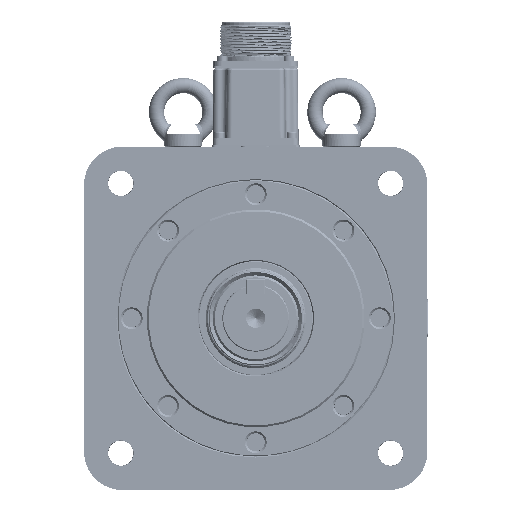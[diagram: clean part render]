
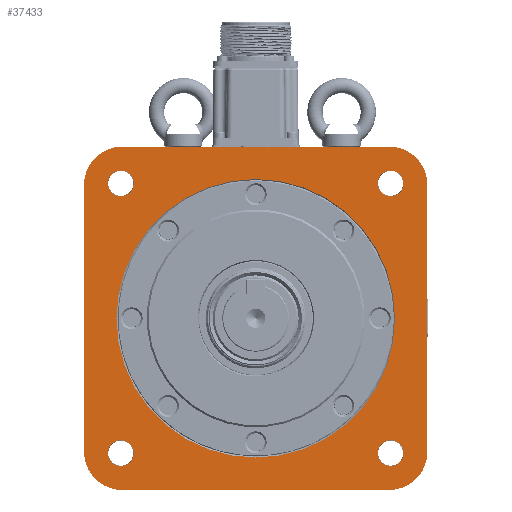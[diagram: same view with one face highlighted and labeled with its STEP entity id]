
A CAD part, front view. The second image highlights one B-rep face of the part: STEP entity #37433.
In plain terms, the highlighted planar face has unit normal (0, -1, 0).
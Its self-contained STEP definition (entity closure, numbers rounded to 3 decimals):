
#2933=LINE('',#73400,#5545);
#2938=LINE('',#73408,#5550);
#2943=LINE('',#73416,#5555);
#2952=LINE('',#73454,#5564);
#5545=VECTOR('',#49076,1000.);
#5550=VECTOR('',#49083,1000.);
#5555=VECTOR('',#49090,1000.);
#5564=VECTOR('',#49123,1000.);
#8064=PLANE('',#40994);
#15091=ORIENTED_EDGE('',*,*,#21865,.T.);
#15092=ORIENTED_EDGE('',*,*,#21758,.F.);
#15093=ORIENTED_EDGE('',*,*,#21768,.F.);
#15094=ORIENTED_EDGE('',*,*,#21790,.F.);
#15095=ORIENTED_EDGE('',*,*,#21780,.F.);
#15096=ORIENTED_EDGE('',*,*,#21816,.T.);
#15097=ORIENTED_EDGE('',*,*,#21840,.T.);
#15098=ORIENTED_EDGE('',*,*,#21811,.T.);
#15099=ORIENTED_EDGE('',*,*,#21841,.T.);
#15100=ORIENTED_EDGE('',*,*,#21806,.T.);
#15101=ORIENTED_EDGE('',*,*,#21842,.T.);
#15102=ORIENTED_EDGE('',*,*,#21836,.T.);
#15103=ORIENTED_EDGE('',*,*,#21839,.T.);
#21758=EDGE_CURVE('',#25850,#25850,#28120,.F.);
#21768=EDGE_CURVE('',#25860,#25860,#28126,.F.);
#21780=EDGE_CURVE('',#25872,#25872,#28134,.F.);
#21790=EDGE_CURVE('',#25882,#25882,#28140,.F.);
#21806=EDGE_CURVE('',#25893,#25892,#2933,.T.);
#21811=EDGE_CURVE('',#25895,#25894,#2938,.T.);
#21816=EDGE_CURVE('',#25897,#25896,#2943,.T.);
#21836=EDGE_CURVE('',#25914,#25913,#2952,.T.);
#21839=EDGE_CURVE('',#25913,#25897,#28157,.F.);
#21840=EDGE_CURVE('',#25896,#25895,#28158,.F.);
#21841=EDGE_CURVE('',#25894,#25893,#28159,.F.);
#21842=EDGE_CURVE('',#25892,#25914,#28160,.F.);
#21865=EDGE_CURVE('',#25925,#25925,#28171,.T.);
#25850=VERTEX_POINT('',#73297);
#25860=VERTEX_POINT('',#73319);
#25872=VERTEX_POINT('',#73347);
#25882=VERTEX_POINT('',#73369);
#25892=VERTEX_POINT('',#73399);
#25893=VERTEX_POINT('',#73401);
#25894=VERTEX_POINT('',#73407);
#25895=VERTEX_POINT('',#73409);
#25896=VERTEX_POINT('',#73415);
#25897=VERTEX_POINT('',#73417);
#25913=VERTEX_POINT('',#73453);
#25914=VERTEX_POINT('',#73455);
#25925=VERTEX_POINT('',#73519);
#28120=CIRCLE('',#40904,6.745);
#28126=CIRCLE('',#40912,6.745);
#28134=CIRCLE('',#40924,6.745);
#28140=CIRCLE('',#40932,6.745);
#28157=CIRCLE('',#40958,20.);
#28158=CIRCLE('',#40960,20.);
#28159=CIRCLE('',#40962,20.);
#28160=CIRCLE('',#40964,20.);
#28171=CIRCLE('',#40995,73.);
#30792=EDGE_LOOP('',(#15091));
#30793=EDGE_LOOP('',(#15092));
#30794=EDGE_LOOP('',(#15093));
#30795=EDGE_LOOP('',(#15094));
#30796=EDGE_LOOP('',(#15095));
#30797=EDGE_LOOP('',(#15096,#15097,#15098,#15099,#15100,#15101,#15102,#15103));
#34103=FACE_BOUND('',#30792,.T.);
#34104=FACE_BOUND('',#30793,.T.);
#34105=FACE_BOUND('',#30794,.T.);
#34106=FACE_BOUND('',#30795,.T.);
#34107=FACE_BOUND('',#30796,.T.);
#34108=FACE_BOUND('',#30797,.T.);
#37433=ADVANCED_FACE('',(#34103,#34104,#34105,#34106,#34107,#34108),#8064,
 .F.);
#40904=AXIS2_PLACEMENT_3D('',#73296,#48976,#48977);
#40912=AXIS2_PLACEMENT_3D('',#73318,#48996,#48997);
#40924=AXIS2_PLACEMENT_3D('',#73346,#49024,#49025);
#40932=AXIS2_PLACEMENT_3D('',#73368,#49044,#49045);
#40958=AXIS2_PLACEMENT_3D('',#73459,#49128,#49129);
#40960=AXIS2_PLACEMENT_3D('',#73461,#49132,#49133);
#40962=AXIS2_PLACEMENT_3D('',#73463,#49136,#49137);
#40964=AXIS2_PLACEMENT_3D('',#73465,#49140,#49141);
#40994=AXIS2_PLACEMENT_3D('',#73517,#49212,#49213);
#40995=AXIS2_PLACEMENT_3D('',#73518,#49214,#49215);
#48976=DIRECTION('',(0.,1.,0.));
#48977=DIRECTION('',(0.,0.,1.));
#48996=DIRECTION('',(0.,1.,0.));
#48997=DIRECTION('',(0.,0.,1.));
#49024=DIRECTION('',(0.,1.,0.));
#49025=DIRECTION('',(0.,0.,1.));
#49044=DIRECTION('',(0.,1.,0.));
#49045=DIRECTION('',(0.,0.,1.));
#49076=DIRECTION('',(0.,0.,1.));
#49083=DIRECTION('',(1.,0.,0.));
#49090=DIRECTION('',(0.,0.,-1.));
#49123=DIRECTION('',(-1.,0.,0.));
#49128=DIRECTION('',(0.,1.,0.));
#49129=DIRECTION('',(0.,0.,1.));
#49132=DIRECTION('',(0.,1.,0.));
#49133=DIRECTION('',(0.,0.,1.));
#49136=DIRECTION('',(0.,1.,0.));
#49137=DIRECTION('',(0.,0.,1.));
#49140=DIRECTION('',(0.,1.,0.));
#49141=DIRECTION('',(0.,0.,1.));
#49212=DIRECTION('',(0.,1.,0.));
#49213=DIRECTION('',(0.,0.,1.));
#49214=DIRECTION('',(0.,1.,0.));
#49215=DIRECTION('',(0.,0.,1.));
#73296=CARTESIAN_POINT('',(-70.711,1.3,70.711));
#73297=CARTESIAN_POINT('',(-70.711,1.3,77.455));
#73318=CARTESIAN_POINT('',(70.711,1.3,70.711));
#73319=CARTESIAN_POINT('',(70.711,1.3,77.455));
#73346=CARTESIAN_POINT('',(-70.711,1.3,-70.711));
#73347=CARTESIAN_POINT('',(-70.711,1.3,-63.966));
#73368=CARTESIAN_POINT('',(70.711,1.3,-70.711));
#73369=CARTESIAN_POINT('',(70.711,1.3,-63.966));
#73399=CARTESIAN_POINT('',(90.,1.3,70.));
#73400=CARTESIAN_POINT('',(90.,1.3,-90.));
#73401=CARTESIAN_POINT('',(90.,1.3,-70.));
#73407=CARTESIAN_POINT('',(70.,1.3,-90.));
#73408=CARTESIAN_POINT('',(-90.,1.3,-90.));
#73409=CARTESIAN_POINT('',(-70.,1.3,-90.));
#73415=CARTESIAN_POINT('',(-90.,1.3,-70.));
#73416=CARTESIAN_POINT('',(-90.,1.3,90.));
#73417=CARTESIAN_POINT('',(-90.,1.3,70.));
#73453=CARTESIAN_POINT('',(-70.,1.3,90.));
#73454=CARTESIAN_POINT('',(90.,1.3,90.));
#73455=CARTESIAN_POINT('',(70.,1.3,90.));
#73459=CARTESIAN_POINT('',(-70.,1.3,70.));
#73461=CARTESIAN_POINT('',(-70.,1.3,-70.));
#73463=CARTESIAN_POINT('',(70.,1.3,-70.));
#73465=CARTESIAN_POINT('',(70.,1.3,70.));
#73517=CARTESIAN_POINT('',(0.,1.3,72.5));
#73518=CARTESIAN_POINT('',(0.,1.3,0.));
#73519=CARTESIAN_POINT('',(0.,1.3,73.));
